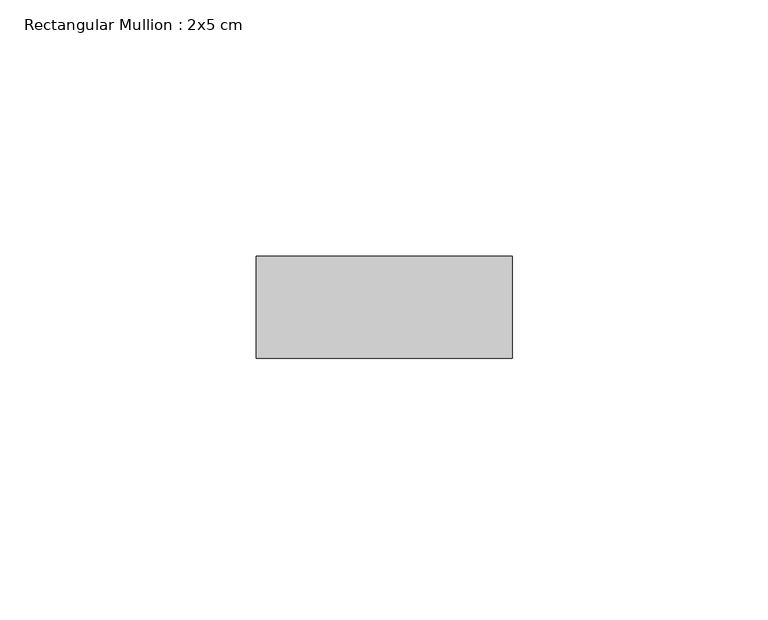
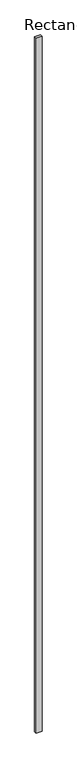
"""IFC4 building model written with IfcOpenShell, lengths in millimetres: member geometry, Rectangular Mullion : 2x5 cm."""

from ifc_helpers import new_model, si_unit, frame, origin, place, context, project, spatial, polyline, outline, extrude, source, transform, mapped, element, save


def rectangular_mullion_2x5_cm_ee49ae9a(model_context):
    return source(origin(), model_context, "Body", "SweptSolid", [
        extrude(outline(polyline([(50.0, 20.0), (50.0, 0.0), (0.0, 0.0), (0.0, 20.0), (50.0, 20.0)])), frame((0.0, 0.0, -6084.9882879), z_axis=(0.0, 0.0, 1.0), x_axis=(1.0, 0.0, 0.0)), (0.0, 0.0, 1.0), 6084.9882879),
    ])


if __name__ == "__main__":
    model = new_model("IFC4")
    model_context = context("Model", 3, world=origin())
    ifc_project = project(units=[si_unit("LENGTHUNIT", "METRE", prefix="MILLI")], contexts=[model_context])
    site = spatial("IfcSite", under=ifc_project)
    building = spatial("IfcBuilding", under=site)
    placement = place(None, origin())
    rectangular_mullion_2x5_cm_shape = rectangular_mullion_2x5_cm_ee49ae9a(model_context)
    element("IfcMember", 1, ObjectType="Rectangular Mullion : 2x5 cm", at=placement, inside=building, context=model_context, shape_type="MappedRepresentation", body=[
        mapped(rectangular_mullion_2x5_cm_shape, transform((0.0, 0.0, 0.0), x_axis=(1.0, 0.0, 0.0), y_axis=(0.0, 1.0, 0.0), z_axis=(0.0, 0.0, 1.0))),
    ])
    save(model, "model.ifc")
